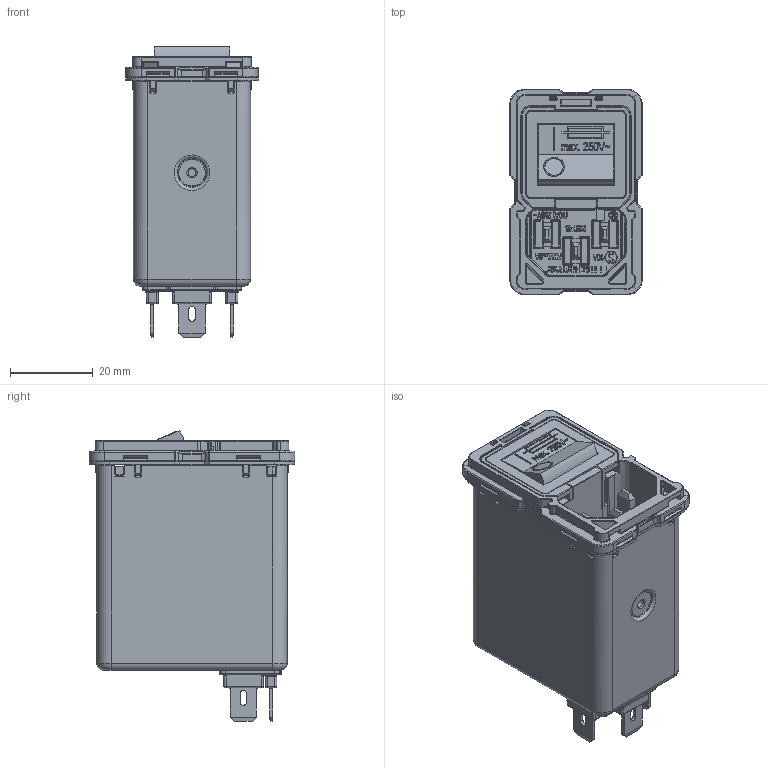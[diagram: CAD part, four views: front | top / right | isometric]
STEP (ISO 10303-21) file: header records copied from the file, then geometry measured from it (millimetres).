
FILE_DESCRIPTION(/* description */ ('raw material description','CAx-IF Rec.Pracs.---Representation and Presentation of Product Manufacturing Information (PMI)---3.8---2014-02-18'),/* implementation_level */ '2;1');
FILE_NAME(/* name */ 'C:\Users\Oliver.Volic\Desktop\FN9280-1-06.stp',/* time_stamp */ '2020-08-13T09:45:24+02:00',/* author */ ('Oliver.Volic'),/* organization */ ('Schaffner EMV AG'),/* preprocessor_version */ 'ST-DEVELOPER v16.5',/* originating_system */ 'Autodesk Inventor 2017',/* authorisation */ '');
FILE_SCHEMA (('AP242_MANAGED_MODEL_BASED_3D_ENGINEERING_MIM_LF { 1 0 10303 442 1 1 4 }'));
Products named in the file (1): FN9280-1-06
Bounding box: 32.1 x 49.9 x 70.44 mm (x, y, z)
Volume: 11491.3 mm3; surface area: 49961.4 mm2
Topology: 8 solids, 9 shells, 5421 faces, 14728 edges, 9273 vertices
Faces by surface type: plane 3021, cylinder 1375, bspline 706, torus 124, sphere 121, cone 74
Full cylindrical faces by diameter (mm): 0.272 x1, 0.305 x1, 1.93 x1, 2.712 x1, 3.013 x1, 3.2 x1, 3.3 x1, 4 x1, 6.4 x1, 7.2 x1, 8.2 x1
Entity records: 190133 total; most frequent: CARTESIAN_POINT 50147, ORIENTED_EDGE 29196, DIRECTION 26683, EDGE_CURVE 14598, LINE 10237, VECTOR 10237, VERTEX_POINT 9272, AXIS2_PLACEMENT_3D 8223
